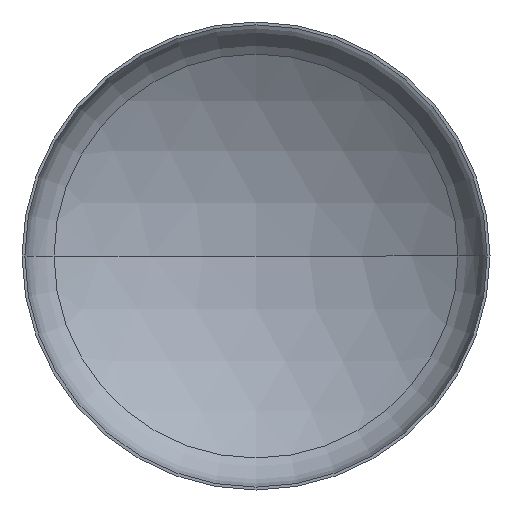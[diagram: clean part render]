
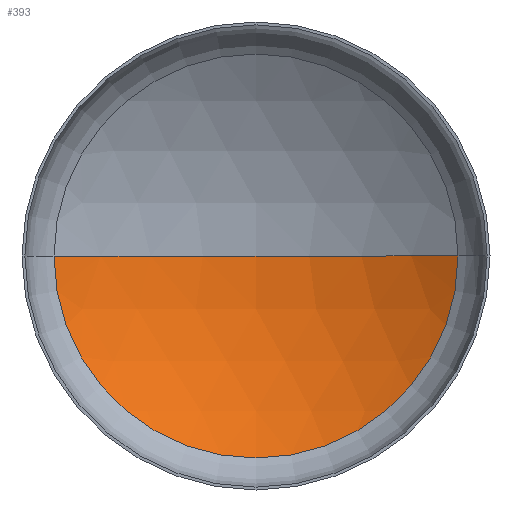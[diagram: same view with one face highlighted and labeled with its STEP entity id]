
A CAD part, front view. The second image highlights one B-rep face of the part: STEP entity #393.
In plain terms, the highlighted spherical face has radius 255.12 mm.
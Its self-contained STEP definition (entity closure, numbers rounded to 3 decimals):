
#7 = CARTESIAN_POINT ( 'NONE',  ( 0., 55.289, 0. ) ) ;
#22 = DIRECTION ( 'NONE',  ( -1., 0., 0. ) ) ;
#27 = DIRECTION ( 'NONE',  ( 0., 0., 1. ) ) ;
#32 = CARTESIAN_POINT ( 'NONE',  ( 0., 97., 0. ) ) ;
#48 = ORIENTED_EDGE ( 'NONE', *, *, #290, .F. ) ;
#74 = EDGE_CURVE ( 'NONE', #357, #251, #105, .T. ) ;
#76 = FACE_OUTER_BOUND ( 'NONE', #362, .T. ) ;
#105 = CIRCLE ( 'NONE', #117, 255.12 ) ;
#107 = ORIENTED_EDGE ( 'NONE', *, *, #230, .T. ) ;
#117 = AXIS2_PLACEMENT_3D ( 'NONE', #120, #396, #22 ) ;
#120 = CARTESIAN_POINT ( 'NONE',  ( 0., -158.12, 0. ) ) ;
#121 = DIRECTION ( 'NONE',  ( 0., 1., 0. ) ) ;
#146 = CIRCLE ( 'NONE', #186, 255.12 ) ;
#151 = CARTESIAN_POINT ( 'NONE',  ( -139.796, 55.289, 0. ) ) ;
#154 = DIRECTION ( 'NONE',  ( -1., 0., 0. ) ) ;
#160 = CARTESIAN_POINT ( 'NONE',  ( 0., -158.12, 0. ) ) ;
#185 = CARTESIAN_POINT ( 'NONE',  ( 0., -158.12, 0. ) ) ;
#186 = AXIS2_PLACEMENT_3D ( 'NONE', #185, #27, #313 ) ;
#194 = SPHERICAL_SURFACE ( 'NONE', #263, 255.12 ) ;
#214 = AXIS2_PLACEMENT_3D ( 'NONE', #7, #121, #154 ) ;
#230 = EDGE_CURVE ( 'NONE', #387, #251, #146, .T. ) ;
#251 = VERTEX_POINT ( 'NONE', #32 ) ;
#254 = CIRCLE ( 'NONE', #214, 139.796 ) ;
#263 = AXIS2_PLACEMENT_3D ( 'NONE', #160, #327, #320 ) ;
#290 = EDGE_CURVE ( 'NONE', #387, #357, #254, .T. ) ;
#313 = DIRECTION ( 'NONE',  ( 1., 0., 0. ) ) ;
#320 = DIRECTION ( 'NONE',  ( -1., 0., 0. ) ) ;
#327 = DIRECTION ( 'NONE',  ( 0., 0., 1. ) ) ;
#330 = ORIENTED_EDGE ( 'NONE', *, *, #74, .F. ) ;
#357 = VERTEX_POINT ( 'NONE', #151 ) ;
#362 = EDGE_LOOP ( 'NONE', ( #48, #107, #330 ) ) ;
#386 = CARTESIAN_POINT ( 'NONE',  ( 139.796, 55.289, 0. ) ) ;
#387 = VERTEX_POINT ( 'NONE', #386 ) ;
#393 = ADVANCED_FACE ( 'NONE', ( #76 ), #194, .F. ) ;
#396 = DIRECTION ( 'NONE',  ( 0., 0., -1. ) ) ;
